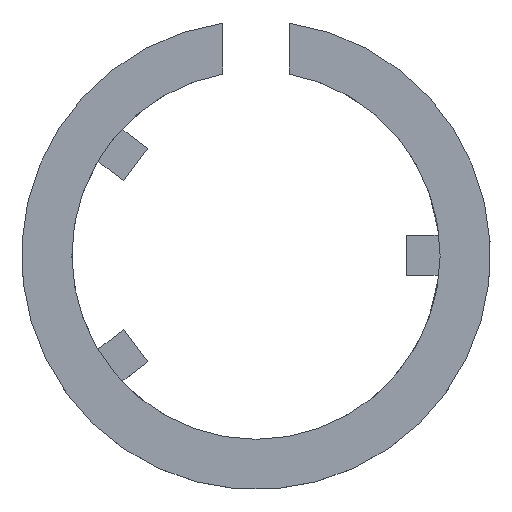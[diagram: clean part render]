
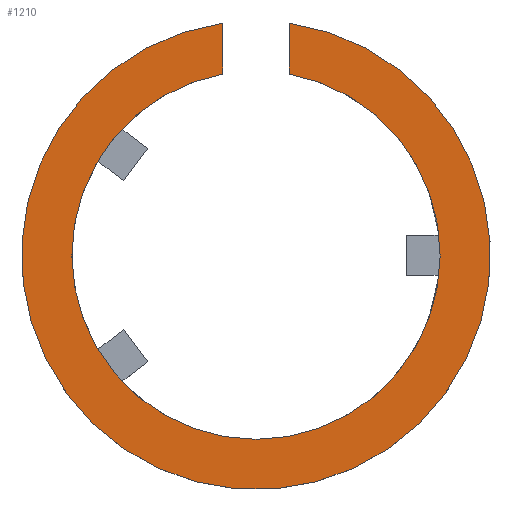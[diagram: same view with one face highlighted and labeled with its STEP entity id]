
A CAD part, top view. The second image highlights one B-rep face of the part: STEP entity #1210.
In plain terms, the highlighted planar face has unit normal (0, 0, 1).
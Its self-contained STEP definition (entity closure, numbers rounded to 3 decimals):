
#33 = CYLINDRICAL_SURFACE('',#34,28.);
#34 = AXIS2_PLACEMENT_3D('',#35,#36,#37);
#35 = CARTESIAN_POINT('',(0.,0.,0.));
#36 = DIRECTION('',(-0.,-0.,-1.));
#37 = DIRECTION('',(1.,0.,0.));
#58 = VERTEX_POINT('',#59);
#59 = CARTESIAN_POINT('',(-4.,27.713,3.2));
#72 = PLANE('',#73);
#73 = AXIS2_PLACEMENT_3D('',#74,#75,#76);
#74 = CARTESIAN_POINT('',(-4.,20.,0.));
#75 = DIRECTION('',(1.,0.,0.));
#76 = DIRECTION('',(0.,0.,1.));
#83 = EDGE_CURVE('',#84,#58,#86,.T.);
#84 = VERTEX_POINT('',#85);
#85 = CARTESIAN_POINT('',(4.,27.713,3.2));
#86 = SURFACE_CURVE('',#87,(#92,#99),.PCURVE_S1.);
#87 = CIRCLE('',#88,28.);
#88 = AXIS2_PLACEMENT_3D('',#89,#90,#91);
#89 = CARTESIAN_POINT('',(0.,0.,3.2));
#90 = DIRECTION('',(0.,0.,-1.));
#91 = DIRECTION('',(0.143,0.99,0.));
#92 = PCURVE('',#33,#93);
#93 = DEFINITIONAL_REPRESENTATION('',(#94),#98);
#94 = LINE('',#95,#96);
#95 = CARTESIAN_POINT('',(-7.711,-3.2));
#96 = VECTOR('',#97,1.);
#97 = DIRECTION('',(1.,-0.));
#98 = ( GEOMETRIC_REPRESENTATION_CONTEXT(2) 
PARAMETRIC_REPRESENTATION_CONTEXT() REPRESENTATION_CONTEXT('2D SPACE',''
  ) );
#99 = PCURVE('',#100,#105);
#100 = PLANE('',#101);
#101 = AXIS2_PLACEMENT_3D('',#102,#103,#104);
#102 = CARTESIAN_POINT('',(0.,0.,3.2));
#103 = DIRECTION('',(0.,0.,1.));
#104 = DIRECTION('',(1.,0.,-0.));
#105 = DEFINITIONAL_REPRESENTATION('',(#106),#114);
#106 = ( BOUNDED_CURVE() B_SPLINE_CURVE(2,(#107,#108,#109,#110,#111,#112
,#113),.UNSPECIFIED.,.T.,.F.) B_SPLINE_CURVE_WITH_KNOTS((1,2,2,2,2,1),(
    -2.094,0.,2.094,4.189,6.283,
8.378),.UNSPECIFIED.) CURVE() GEOMETRIC_REPRESENTATION_ITEM() 
RATIONAL_B_SPLINE_CURVE((1.,0.5,1.,0.5,1.,0.5,1.)) REPRESENTATION_ITEM(
  '') );
#107 = CARTESIAN_POINT('',(4.,27.713));
#108 = CARTESIAN_POINT('',(52.,20.785));
#109 = CARTESIAN_POINT('',(22.,-17.321));
#110 = CARTESIAN_POINT('',(-8.,-55.426));
#111 = CARTESIAN_POINT('',(-26.,-10.392));
#112 = CARTESIAN_POINT('',(-44.,34.641));
#113 = CARTESIAN_POINT('',(4.,27.713));
#114 = ( GEOMETRIC_REPRESENTATION_CONTEXT(2) 
PARAMETRIC_REPRESENTATION_CONTEXT() REPRESENTATION_CONTEXT('2D SPACE',''
  ) );
#129 = PLANE('',#130);
#130 = AXIS2_PLACEMENT_3D('',#131,#132,#133);
#131 = CARTESIAN_POINT('',(4.,20.,0.));
#132 = DIRECTION('',(1.,0.,0.));
#133 = DIRECTION('',(0.,0.,1.));
#144 = VERTEX_POINT('',#145);
#145 = CARTESIAN_POINT('',(4.,21.633,3.2));
#160 = CYLINDRICAL_SURFACE('',#161,22.);
#161 = AXIS2_PLACEMENT_3D('',#162,#163,#164);
#162 = CARTESIAN_POINT('',(0.,0.,0.));
#163 = DIRECTION('',(-0.,-0.,-1.));
#164 = DIRECTION('',(1.,0.,0.));
#193 = EDGE_CURVE('',#144,#84,#194,.T.);
#194 = SURFACE_CURVE('',#195,(#199,#205),.PCURVE_S1.);
#195 = LINE('',#196,#197);
#196 = CARTESIAN_POINT('',(4.,10.,3.2));
#197 = VECTOR('',#198,1.);
#198 = DIRECTION('',(0.,1.,0.));
#199 = PCURVE('',#129,#200);
#200 = DEFINITIONAL_REPRESENTATION('',(#201),#204);
#201 = B_SPLINE_CURVE_WITH_KNOTS('',1,(#202,#203),.UNSPECIFIED.,.F.,.F.,
  (2,2),(10.,18.),.PIECEWISE_BEZIER_KNOTS.);
#202 = CARTESIAN_POINT('',(3.2,0.));
#203 = CARTESIAN_POINT('',(3.2,-8.));
#204 = ( GEOMETRIC_REPRESENTATION_CONTEXT(2) 
PARAMETRIC_REPRESENTATION_CONTEXT() REPRESENTATION_CONTEXT('2D SPACE',''
  ) );
#205 = PCURVE('',#100,#206);
#206 = DEFINITIONAL_REPRESENTATION('',(#207),#210);
#207 = B_SPLINE_CURVE_WITH_KNOTS('',1,(#208,#209),.UNSPECIFIED.,.F.,.F.,
  (2,2),(10.,18.),.PIECEWISE_BEZIER_KNOTS.);
#208 = CARTESIAN_POINT('',(4.,20.));
#209 = CARTESIAN_POINT('',(4.,28.));
#210 = ( GEOMETRIC_REPRESENTATION_CONTEXT(2) 
PARAMETRIC_REPRESENTATION_CONTEXT() REPRESENTATION_CONTEXT('2D SPACE',''
  ) );
#215 = EDGE_CURVE('',#144,#216,#218,.T.);
#216 = VERTEX_POINT('',#217);
#217 = CARTESIAN_POINT('',(-4.,21.633,3.2));
#218 = SURFACE_CURVE('',#219,(#224,#231),.PCURVE_S1.);
#219 = CIRCLE('',#220,22.);
#220 = AXIS2_PLACEMENT_3D('',#221,#222,#223);
#221 = CARTESIAN_POINT('',(0.,0.,3.2));
#222 = DIRECTION('',(0.,0.,-1.));
#223 = DIRECTION('',(0.182,0.983,0.));
#224 = PCURVE('',#160,#225);
#225 = DEFINITIONAL_REPRESENTATION('',(#226),#230);
#226 = LINE('',#227,#228);
#227 = CARTESIAN_POINT('',(-7.671,-3.2));
#228 = VECTOR('',#229,1.);
#229 = DIRECTION('',(1.,-0.));
#230 = ( GEOMETRIC_REPRESENTATION_CONTEXT(2) 
PARAMETRIC_REPRESENTATION_CONTEXT() REPRESENTATION_CONTEXT('2D SPACE',''
  ) );
#231 = PCURVE('',#100,#232);
#232 = DEFINITIONAL_REPRESENTATION('',(#233),#241);
#233 = ( BOUNDED_CURVE() B_SPLINE_CURVE(2,(#234,#235,#236,#237,#238,#239
,#240),.UNSPECIFIED.,.T.,.F.) B_SPLINE_CURVE_WITH_KNOTS((1,2,2,2,2,1),(
    -2.094,0.,2.094,4.189,6.283,
8.378),.UNSPECIFIED.) CURVE() GEOMETRIC_REPRESENTATION_ITEM() 
RATIONAL_B_SPLINE_CURVE((1.,0.5,1.,0.5,1.,0.5,1.)) REPRESENTATION_ITEM(
  '') );
#234 = CARTESIAN_POINT('',(4.,21.633));
#235 = CARTESIAN_POINT('',(41.47,14.705));
#236 = CARTESIAN_POINT('',(16.735,-14.281));
#237 = CARTESIAN_POINT('',(-8.,-43.267));
#238 = CARTESIAN_POINT('',(-20.735,-7.353));
#239 = CARTESIAN_POINT('',(-33.47,28.562));
#240 = CARTESIAN_POINT('',(4.,21.633));
#241 = ( GEOMETRIC_REPRESENTATION_CONTEXT(2) 
PARAMETRIC_REPRESENTATION_CONTEXT() REPRESENTATION_CONTEXT('2D SPACE',''
  ) );
#1210 = ADVANCED_FACE('',(#1211),#100,.T.);
#1211 = FACE_BOUND('',#1212,.T.);
#1212 = EDGE_LOOP('',(#1213,#1232,#1233,#1234));
#1213 = ORIENTED_EDGE('',*,*,#1214,.T.);
#1214 = EDGE_CURVE('',#216,#58,#1215,.T.);
#1215 = SURFACE_CURVE('',#1216,(#1220,#1226),.PCURVE_S1.);
#1216 = LINE('',#1217,#1218);
#1217 = CARTESIAN_POINT('',(-4.,10.,3.2));
#1218 = VECTOR('',#1219,1.);
#1219 = DIRECTION('',(0.,1.,0.));
#1220 = PCURVE('',#100,#1221);
#1221 = DEFINITIONAL_REPRESENTATION('',(#1222),#1225);
#1222 = B_SPLINE_CURVE_WITH_KNOTS('',1,(#1223,#1224),.UNSPECIFIED.,.F.,
  .F.,(2,2),(10.,18.),.PIECEWISE_BEZIER_KNOTS.);
#1223 = CARTESIAN_POINT('',(-4.,20.));
#1224 = CARTESIAN_POINT('',(-4.,28.));
#1225 = ( GEOMETRIC_REPRESENTATION_CONTEXT(2) 
PARAMETRIC_REPRESENTATION_CONTEXT() REPRESENTATION_CONTEXT('2D SPACE',''
  ) );
#1226 = PCURVE('',#72,#1227);
#1227 = DEFINITIONAL_REPRESENTATION('',(#1228),#1231);
#1228 = B_SPLINE_CURVE_WITH_KNOTS('',1,(#1229,#1230),.UNSPECIFIED.,.F.,
  .F.,(2,2),(10.,18.),.PIECEWISE_BEZIER_KNOTS.);
#1229 = CARTESIAN_POINT('',(3.2,0.));
#1230 = CARTESIAN_POINT('',(3.2,-8.));
#1231 = ( GEOMETRIC_REPRESENTATION_CONTEXT(2) 
PARAMETRIC_REPRESENTATION_CONTEXT() REPRESENTATION_CONTEXT('2D SPACE',''
  ) );
#1232 = ORIENTED_EDGE('',*,*,#83,.F.);
#1233 = ORIENTED_EDGE('',*,*,#193,.F.);
#1234 = ORIENTED_EDGE('',*,*,#215,.T.);
